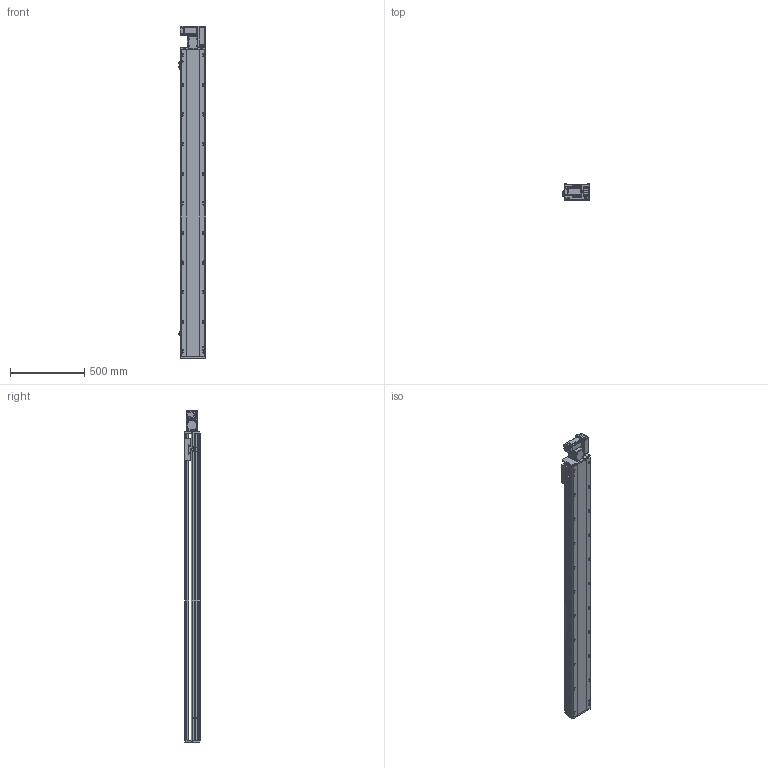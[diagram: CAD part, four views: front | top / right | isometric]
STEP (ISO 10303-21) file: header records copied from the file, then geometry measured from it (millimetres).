
FILE_DESCRIPTION (( 'STEP AP214' ), '1' );
FILE_NAME ('RTB17S-XX-1800-R-M40-C4.STEP', '2025-12-11T07:42:40', ( '' ), ( '' ), 'SwSTEP 2.0', 'SolidWorks 2018', '' );
FILE_SCHEMA (( 'AUTOMOTIVE_DESIGN' ));
Length unit declared in the file: millimetre
Products named in the file (14): RTB14-L-008-M20--萇儂啣^RTB17S-R-々湍釱蚾饜-400W_RTB17S-XX-XX-R-M40-C4; RTB17S-R-々湍釱蚾饜-400W^RTB17S-XX-XX-R-M40-C4; RTB17S-L-001耜醱啣^RTB17S-XX-XX-R-M40-C4; RTB17S-L-014-T20--々湍釱^RTB17S-R-々湍釱蚾饜-400W_RTB17S-XX-XX-R-M40-C4; 400W侜督萇儂^RTB17S-XX-XX-R-M40-C4; RTB17S-L-004佪裝蹟譫蟀諉釱^RTB17S-XX-XX-R-M40-C4; RTB14-L-005P--轴承塑胶压盖^RTB17S-R-皮带座装配-400W_RTB17S-XX-XX-R-M40-C4; RTB17-R-011菁釱^RTB17S-XX-XX-R-M40-C4; RTB17S-L-007奻裔^RTB17S-XX-XX-R-M40-C4; RTB14-L-017P^RTB17S-R-々湍釱蚾饜-400W_RTB17S-XX-XX-R-M40-C4; RTB17S-XX-1800-R-M40-C4; RTH13-BL-012覜茼え俋离^RTB17S-XX-XX-R-M40-C4; RTB14-L-018P^RTB17S-R-々湍釱蚾饜-400W_RTB17S-XX-XX-R-M40-C4; OMRON EE-SX672 传感器^RTB17S-XX-XX-R-M40-C4
Assembly tree (16 placements, depth 3):
  RTB17S-XX-1800-R-M40-C4
    RTB17-R-011菁釱^RTB17S-XX-XX-R-M40-C4
    RTB17S-L-007奻裔^RTB17S-XX-XX-R-M40-C4
    OMRON EE-SX672 传感器^RTB17S-XX-XX-R-M40-C4  x3
    RTB17S-L-001耜醱啣^RTB17S-XX-XX-R-M40-C4
    400W侜督萇儂^RTB17S-XX-XX-R-M40-C4
    RTB17S-L-004佪裝蹟譫蟀諉釱^RTB17S-XX-XX-R-M40-C4
    RTH13-BL-012覜茼え俋离^RTB17S-XX-XX-R-M40-C4
    RTB17S-R-々湍釱蚾饜-400W^RTB17S-XX-XX-R-M40-C4
      RTB17S-L-014-T20--々湍釱^RTB17S-R-々湍釱蚾饜-400W_RTB17S-XX-XX-R-M40-C4
      RTB14-L-005P--轴承塑胶压盖^RTB17S-R-皮带座装配-400W_RTB17S-XX-XX-R-M40-C4
      RTB14-L-008-M20--萇儂啣^RTB17S-R-々湍釱蚾饜-400W_RTB17S-XX-XX-R-M40-C4
      RTB14-L-017P^RTB17S-R-々湍釱蚾饜-400W_RTB17S-XX-XX-R-M40-C4  x2
      RTB14-L-018P^RTB17S-R-々湍釱蚾饜-400W_RTB17S-XX-XX-R-M40-C4
Bounding box: 183.5 x 108 x 2241 mm (x, y, z)
Volume: 18900911 mm3; surface area: 2208598.6 mm2
Topology: 15 solids, 15 shells, 2269 faces, 6303 edges, 4113 vertices
Faces by surface type: plane 1076, cylinder 745, bspline 301, cone 139, torus 8
Entity records: 65705 total; most frequent: CARTESIAN_POINT 18508, ORIENTED_EDGE 9450, DIRECTION 8756, EDGE_CURVE 4725, VERTEX_POINT 3101, AXIS2_PLACEMENT_3D 3031, VECTOR 2694, LINE 2694
